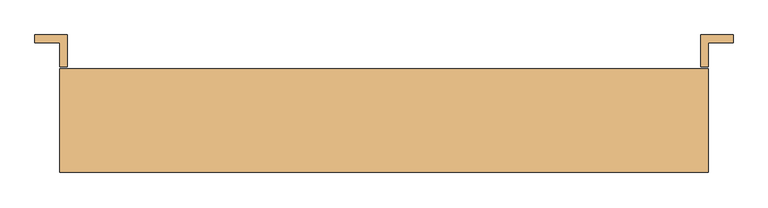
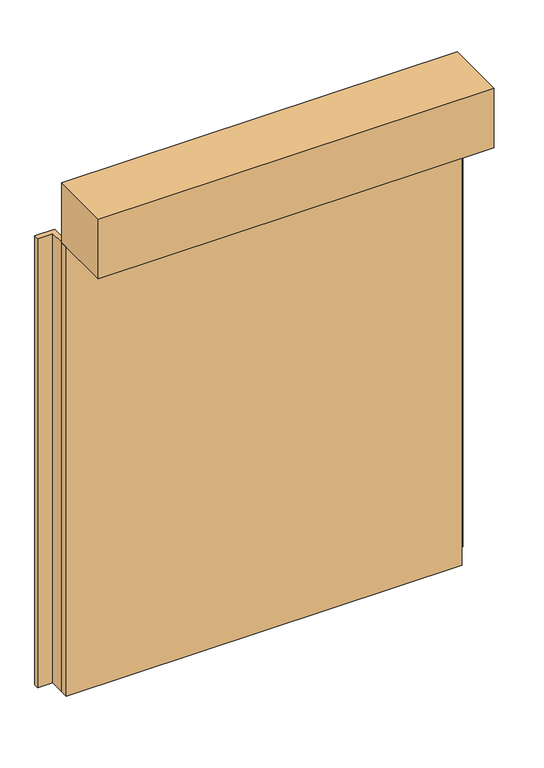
"""IFC4 building model written with IfcOpenShell, lengths in millimetres: door geometry, Rollershutter : 25000(w) x 3000(h)."""

import ifcopenshell
import ifcopenshell.guid

model = None  # the IFC model being written
_history = None  # IfcOwnerHistory: only IFC2X3 demands one
_inside = {}  # id of a spatial element -> (the spatial element, [elements in it])
_under = {}  # id of a project, library or spatial element -> (it, [spatial elements below it])
_declared = {}  # id of a project -> (the project, [libraries it declares])
_typed = {}  # id of a type object -> (the type object, [elements of that type])
_made_of = {}  # id of a material, layer set ... -> (it, [elements and type objects made of it])


def new_model(schema):
    """Start an empty IFC model of exactly this schema.

    Asked for "IFC4X3", IfcOpenShell would pick the latest addendum, in which some entities
    have other attributes; the version numbers below select the first issue.
    IFC2X3 requires an IfcOwnerHistory on every rooted entity: one is made here for all.
    """
    global model, _history
    if schema == "IFC4X3":
        model = ifcopenshell.file(schema_version=(4, 3, 0, 0))
    else:
        model = ifcopenshell.file(schema=schema)
    _inside.clear()
    _under.clear()
    _declared.clear()
    _typed.clear()
    _made_of.clear()
    _history = None
    if model.schema == "IFC2X3":
        org = make("IfcOrganization", Name="unknown")
        user = make(
            "IfcPersonAndOrganization",
            ThePerson=make("IfcPerson", FamilyName="unknown"),
            TheOrganization=org,
        )
        app = make(
            "IfcApplication",
            ApplicationDeveloper=org,
            Version="unknown",
            ApplicationFullName="unknown",
            ApplicationIdentifier="unknown",
        )
        _history = make(
            "IfcOwnerHistory",
            OwningUser=user,
            OwningApplication=app,
            ChangeAction="ADDED",
            CreationDate=0,
        )
    return model


def make(cls, **values):
    """One entity of the class cls with the attributes given. An attribute that is None is left unset."""
    return model.create_entity(
        cls, **{name: value for name, value in values.items() if value is not None}
    )


def rooted(cls, **values):
    """An entity with a GlobalId (a new one), such as an element, a storey or a relation."""
    return make(cls, GlobalId=ifcopenshell.guid.new(), OwnerHistory=_history, **values)


def si_unit(unit_type, name, prefix=None):
    """IfcSIUnit, for example si_unit("LENGTHUNIT", "METRE", prefix="MILLI")."""
    return make("IfcSIUnit", UnitType=unit_type, Prefix=prefix, Name=name)


def assignment(units):
    """IfcUnitAssignment: the units of a project."""
    return None if units is None else make("IfcUnitAssignment", Units=units)


def point(xyz):
    """IfcCartesianPoint."""
    return None if xyz is None else make("IfcCartesianPoint", Coordinates=xyz)


def direction(xyz):
    """IfcDirection."""
    return None if xyz is None else make("IfcDirection", DirectionRatios=xyz)


def frame(location, z_axis=None, x_axis=None):
    """IfcAxis2Placement3D, a coordinate frame: its origin and axes. An axis left out is left unset."""
    return make(
        "IfcAxis2Placement3D",
        Location=point(location),
        Axis=direction(z_axis),
        RefDirection=direction(x_axis),
    )


def origin():
    """The frame at (0, 0, 0) with its axes left unset."""
    return frame((0.0, 0.0, 0.0))


def origin_with_axes():
    """The frame at (0, 0, 0) with the z axis (0, 0, 1) and the x axis (1, 0, 0) written out."""
    return frame((0.0, 0.0, 0.0), z_axis=(0.0, 0.0, 1.0), x_axis=(1.0, 0.0, 0.0))


def place(relative_to, where):
    """IfcLocalPlacement: puts the frame where relative to a parent placement (None: the world)."""
    return make(
        "IfcLocalPlacement", PlacementRelTo=relative_to, RelativePlacement=where
    )


def context(
    kind, dimensions, precision=None, world=None, true_north=None, identifier=None
):
    """IfcGeometricRepresentationContext, for example the 3D "Model" context."""
    return make(
        "IfcGeometricRepresentationContext",
        ContextIdentifier=identifier,
        ContextType=kind,
        CoordinateSpaceDimension=dimensions,
        Precision=precision,
        WorldCoordinateSystem=world,
        TrueNorth=true_north,
    )


def project(units=None, contexts=None):
    """IfcProject with its units and contexts."""
    return rooted(
        "IfcProject",
        Name="project",
        RepresentationContexts=contexts,
        UnitsInContext=assignment(units),
    )


def spatial(cls, under=None, at=None, **own):
    """A site, building, storey or space (cls), placed at a placement, below another one or the project."""
    s = rooted(cls, ObjectPlacement=at, **own)
    if under is not None:
        _under.setdefault(under.id(), (under, []))[1].append(s)
    return s


def polyline(points):
    """IfcPolyline through the points."""
    return make("IfcPolyline", Points=[point(p) for p in points])


def outline(outer, holes=None, kind="AREA"):
    """IfcArbitraryClosedProfileDef: a profile drawn as a closed curve; with holes, ...WithVoids."""
    if holes is None:
        return make("IfcArbitraryClosedProfileDef", ProfileType=kind, OuterCurve=outer)
    return make(
        "IfcArbitraryProfileDefWithVoids",
        ProfileType=kind,
        OuterCurve=outer,
        InnerCurves=holes,
    )


def extrude(swept, where, along, depth):
    """IfcExtrudedAreaSolid: the profile swept, set in the frame where, extruded along a direction by depth."""
    return make(
        "IfcExtrudedAreaSolid",
        SweptArea=swept,
        Position=where,
        ExtrudedDirection=direction(along),
        Depth=depth,
    )


def shape(context_of_items, identifier, shape_type, items):
    """IfcShapeRepresentation: the items that make up one representation, for example the "Body"."""
    return make(
        "IfcShapeRepresentation",
        ContextOfItems=context_of_items,
        RepresentationIdentifier=identifier,
        RepresentationType=shape_type,
        Items=items,
    )


def source(mapping_origin, context_of_items, identifier, shape_type, items):
    """IfcRepresentationMap: a shape defined once, which mapped items show again and again."""
    return make(
        "IfcRepresentationMap",
        MappingOrigin=mapping_origin,
        MappedRepresentation=shape(context_of_items, identifier, shape_type, items),
    )


def transform(
    local_origin,
    x_axis=None,
    y_axis=None,
    z_axis=None,
    scale=None,
    scale2=None,
    scale3=None,
    uniform=True,
):
    """IfcCartesianTransformationOperator3D, or its non-uniform kind. x_axis, y_axis, z_axis: its Axis1, 2, 3."""
    if uniform:
        return make(
            "IfcCartesianTransformationOperator3D",
            Axis1=direction(x_axis),
            Axis2=direction(y_axis),
            LocalOrigin=point(local_origin),
            Scale=scale,
            Axis3=direction(z_axis),
        )
    return make(
        "IfcCartesianTransformationOperator3DnonUniform",
        Axis1=direction(x_axis),
        Axis2=direction(y_axis),
        LocalOrigin=point(local_origin),
        Scale=scale,
        Axis3=direction(z_axis),
        Scale2=scale2,
        Scale3=scale3,
    )


def mapped(mapping_source, mapping_target):
    """IfcMappedItem: shows the shape of a source again, moved by a transform."""
    return make(
        "IfcMappedItem", MappingSource=mapping_source, MappingTarget=mapping_target
    )


def made_of(thing, what):
    """Note that an element or type object is made of a material, layer set ...; save() writes the relation."""
    if what is not None:
        _made_of.setdefault(what.id(), (what, []))[1].append(thing)
    return thing


def element(
    cls,
    number,
    at=None,
    inside=None,
    cuts=None,
    type_object=None,
    material=None,
    context=None,
    identifier="Body",
    shape_type=None,
    held_by="IfcProductDefinitionShape",
    body=None,
    shapes=None,
    **own,
):
    """One element of the class cls, such as IfcWall. Its Tag is "e" and its number.

    at: its placement. inside: the storey or other place that contains it. cuts: it is an
    opening in that element (IfcRelVoidsElement). A single representation is given by context,
    identifier, shape_type and body (its items); several are given by shapes. held_by: the class
    of the entity that holds the representations. save() writes the other relations.
    """
    e = rooted(cls, Tag="e%d" % number, ObjectPlacement=at, **own)
    if body is not None:
        shapes = [shape(context, identifier, shape_type, body)]
    if shapes is not None:
        e.Representation = make(held_by, Representations=shapes)
    if inside is not None:
        _inside.setdefault(inside.id(), (inside, []))[1].append(e)
    if cuts is not None:
        rooted(
            "IfcRelVoidsElement", RelatingBuildingElement=cuts, RelatedOpeningElement=e
        )
    if type_object is not None:
        _typed.setdefault(type_object.id(), (type_object, []))[1].append(e)
    return made_of(e, material)


def aggregate(whole, parts):
    """IfcRelAggregates: a whole, such as a stair, and the parts it consists of."""
    return rooted("IfcRelAggregates", RelatingObject=whole, RelatedObjects=parts)


def save(model, path):
    """Write the relations noted so far, then the file.

    IfcRelAggregates (storeys below a building ...), IfcRelContainedInSpatialStructure (elements
    in a storey), IfcRelDefinesByType, IfcRelAssociatesMaterial and IfcRelDeclares: one each for
    every whole, place, type object, material and project.
    """
    for whole, parts in _under.values():
        aggregate(whole, parts)
    for where, things in _inside.values():
        rooted(
            "IfcRelContainedInSpatialStructure",
            RelatedElements=things,
            RelatingStructure=where,
        )
    for kind, things in _typed.values():
        rooted("IfcRelDefinesByType", RelatedObjects=things, RelatingType=kind)
    for what, things in _made_of.values():
        rooted("IfcRelAssociatesMaterial", RelatedObjects=things, RelatingMaterial=what)
    for by, libraries in _declared.values():
        rooted("IfcRelDeclares", RelatingContext=by, RelatedDefinitions=libraries)
    model.write(path)


def door_2c6974ce(model_context):
    return source(origin(), model_context, "Body", "SweptSolid", [
        extrude(outline(polyline([(850.0, -50.0), (850.0, -101.0), (-1650.0, -101.0), (-1650.0, -50.0), (850.0, -50.0)])), origin_with_axes(), (0.0, 0.0, 1.0), 3000.0),
        extrude(outline(polyline([(-1745.0, 80.0), (-1620.0, 80.0), (-1620.0, -41.8), (-1650.0, -41.8), (-1650.0, 50.0), (-1745.0, 50.0), (-1745.0, 80.0)])), origin_with_axes(), (0.0, 0.0, 1.0), 3000.0),
        extrude(outline(polyline([(945.0, 80.0), (945.0, 50.0), (850.0, 50.0), (850.0, -41.8), (820.0, -41.8), (820.0, 80.0), (945.0, 80.0)])), origin_with_axes(), (0.0, 0.0, 1.0), 3000.0),
        extrude(outline(polyline([(-1650.0, -450.0), (-1650.0, -50.0), (850.0, -50.0), (850.0, -450.0), (-1650.0, -450.0)])), frame((0.0, 0.0, 3000.0), z_axis=(0.0, 0.0, 1.0), x_axis=(1.0, 0.0, 0.0)), (0.0, 0.0, 1.0), 400.0),
    ])


if __name__ == "__main__":
    model = new_model("IFC4")
    model_context = context("Model", 3, world=origin())
    ifc_project = project(units=[si_unit("LENGTHUNIT", "METRE", prefix="MILLI")], contexts=[model_context])
    site = spatial("IfcSite", under=ifc_project)
    building = spatial("IfcBuilding", under=site)
    placement = place(None, origin())
    door_shape = door_2c6974ce(model_context)
    element("IfcDoor", 1, ObjectType="Rollershutter : 25000(w) x 3000(h)", at=placement, inside=building, context=model_context, shape_type="MappedRepresentation", body=[
        mapped(door_shape, transform((0.0, 0.0, 0.0), x_axis=(1.0, 0.0, 0.0), y_axis=(0.0, 1.0, 0.0), z_axis=(0.0, 0.0, 1.0))),
    ])
    save(model, "model.ifc")
